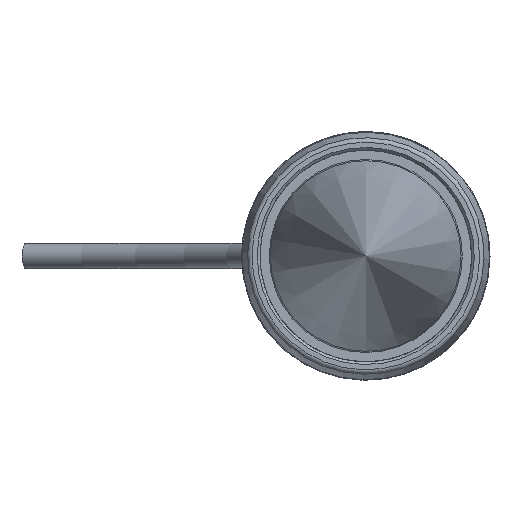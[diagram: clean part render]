
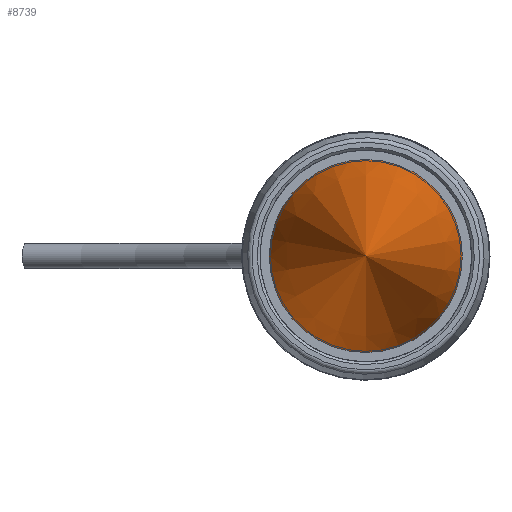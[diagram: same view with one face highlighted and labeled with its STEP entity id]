
A CAD part, front view. The second image highlights one B-rep face of the part: STEP entity #8739.
In plain terms, the highlighted conical face has half-angle 14.33 degrees and reference radius 10.488 mm.
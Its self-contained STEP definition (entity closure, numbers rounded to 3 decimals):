
#708 = CARTESIAN_POINT ( 'NONE',  ( -29.771, 10.488, 0. ) ) ;
#1857 = EDGE_LOOP ( 'NONE', ( #14017 ) ) ;
#2615 = AXIS2_PLACEMENT_3D ( 'NONE', #6574, #8697, #6428 ) ;
#3661 = CARTESIAN_POINT ( 'NONE',  ( -29.771, 0., 0. ) ) ;
#6428 = DIRECTION ( 'NONE',  ( 0., 1., 0. ) ) ;
#6574 = CARTESIAN_POINT ( 'NONE',  ( -29.771, 0., 0. ) ) ;
#8019 = CIRCLE ( 'NONE', #8744, 10.488 ) ;
#8697 = DIRECTION ( 'NONE',  ( 1., 0., 0. ) ) ;
#8739 = ADVANCED_FACE ( 'NONE', ( #10118 ), #10142, .T. ) ;
#8744 = AXIS2_PLACEMENT_3D ( 'NONE', #3661, #13038, #10647 ) ;
#10118 = FACE_OUTER_BOUND ( 'NONE', #1857, .T. ) ;
#10142 = CONICAL_SURFACE ( 'NONE', #2615, 10.488, 0.25 ) ;
#10647 = DIRECTION ( 'NONE',  ( 0., 1., 0. ) ) ;
#11518 = VERTEX_POINT ( 'NONE', #708 ) ;
#13038 = DIRECTION ( 'NONE',  ( 1., 0., 0. ) ) ;
#13415 = EDGE_CURVE ( 'NONE', #11518, #11518, #8019, .T. ) ;
#14017 = ORIENTED_EDGE ( 'NONE', *, *, #13415, .F. ) ;
